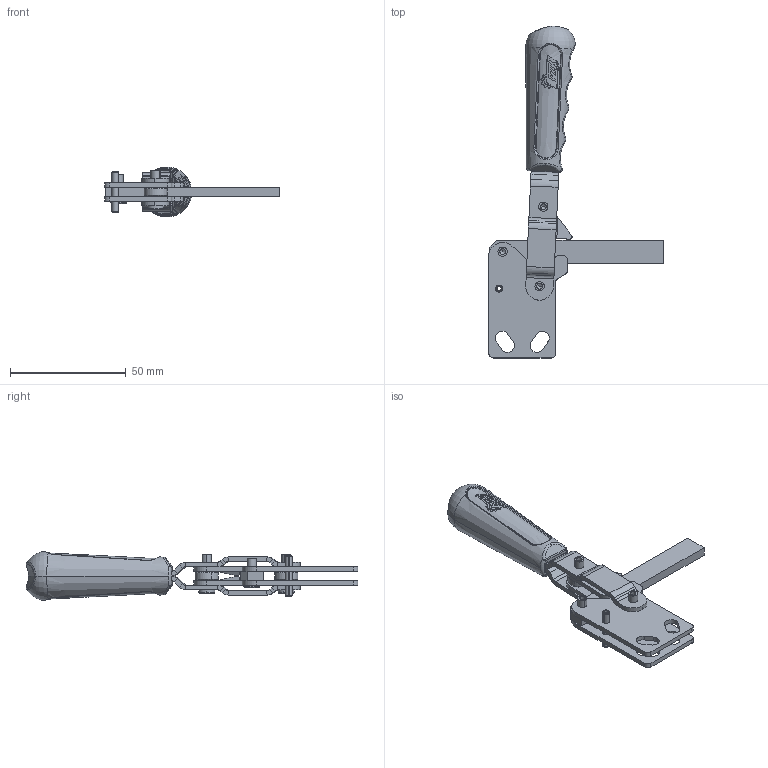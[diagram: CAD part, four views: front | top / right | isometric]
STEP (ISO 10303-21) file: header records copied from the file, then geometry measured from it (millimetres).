
FILE_DESCRIPTION (( 'STEP AP214' ), '1' );
FILE_NAME ('201_B.STEP', '2024-09-09T16:25:36', ( '' ), ( '' ), 'SwSTEP 2.0', 'SolidWorks 2023', '' );
FILE_SCHEMA (( 'AUTOMOTIVE_DESIGN' ));
Length unit declared in the file: millimetre
Products named in the file (12): spring pin slotted_hd_din_Spring Pin ISO 8752 - 3 x 18 - St; FZK_201_B_06_00; FZK_201_B_8_00; FZK_201_B_02A_00; 201_B; DALDIRMA SAP; FZK_201_B_02_00; FZK_201_B_01_00; FZK_201_B_04_00; FZK_201_B_05_00; FZK_201_B_7_00; FZK_201_B_03_00
Assembly tree (16 placements, depth 3):
  201_B
    FZK_201_B_04_00
    FZK_201_B_01_00  x2
    FZK_201_B_03_00
    FZK_201_B_02_00
      FZK_201_B_02A_00  x2
    FZK_201_B_05_00
    FZK_201_B_06_00  x2
    FZK_201_B_7_00  x2
    FZK_201_B_8_00  x2
    DALDIRMA SAP
    spring pin slotted_hd_din_Spring Pin ISO 8752 - 3 x 18 - St
Bounding box: 75.5 x 143.61 x 21.39 mm (x, y, z)
Volume: 28501.1 mm3; surface area: 23633.2 mm2
Topology: 15 solids, 15 shells, 623 faces, 1525 edges, 935 vertices
Faces by surface type: bspline 213, cylinder 177, plane 164, cone 43, sphere 20, torus 6
Entity records: 27316 total; most frequent: CARTESIAN_POINT 16971, ORIENTED_EDGE 2412, DIRECTION 1504, EDGE_CURVE 1206, VERTEX_POINT 755, AXIS2_PLACEMENT_3D 604, B_SPLINE_CURVE_WITH_KNOTS 588, EDGE_LOOP 533
